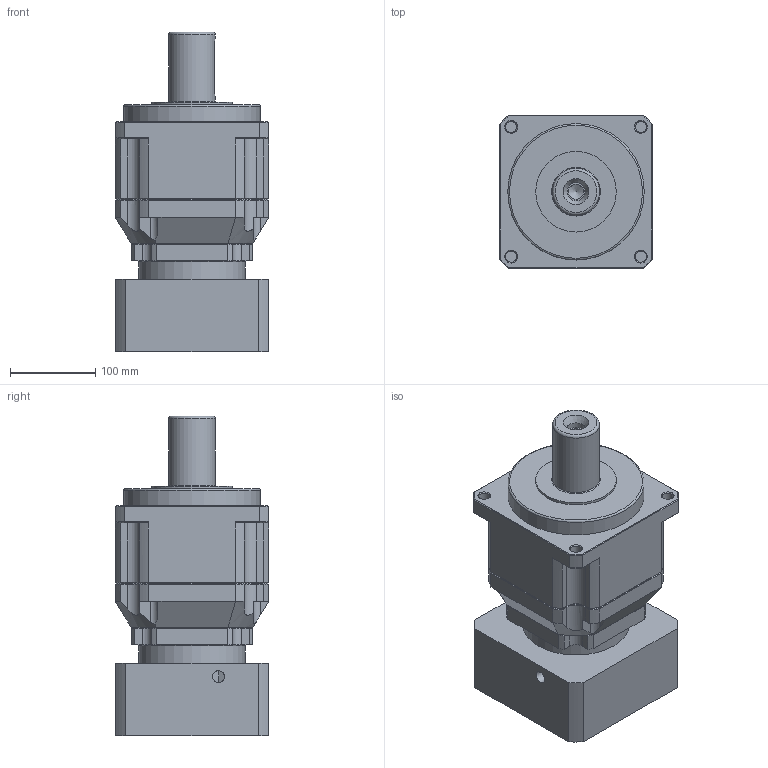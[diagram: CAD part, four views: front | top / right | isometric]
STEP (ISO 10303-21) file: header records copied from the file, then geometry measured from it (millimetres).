
FILE_DESCRIPTION(/* description */ (''),/* implementation_level */ '2;1');
FILE_NAME(/* name */ 'TB180-L2-42-114.3-200-M12-115-15.stp',/* time_stamp */ '2020-11-24T16:39:06+08:00',/* author */ (''),/* organization */ (''),/* preprocessor_version */ 'ST-DEVELOPER v16',/* originating_system */ 'SIEMENS PLM Software NX 10.0',/* authorisation */ '');
FILE_SCHEMA (('CONFIG_CONTROL_DESIGN'));
Length unit declared in the file: millimetre
Products named in the file (1): _model294
Bounding box: 180 x 180 x 374.8 mm (x, y, z)
Volume: 6857776.3 mm3; surface area: 452953 mm2
Topology: 4 solids, 4 shells, 424 faces, 1032 edges, 641 vertices
Faces by surface type: plane 176, cylinder 132, cone 99, torus 9, bspline 8
Full cylindrical faces by diameter (mm): 6.8 x11, 8.5 x5, 9 x6, 10 x8, 11 x4, 13 x4, 14 x8, 16.7 x1, 17.5 x1, 21 x1, 42 x1, 42.3 x1, 49.5 x1, 52 x2, 55 x4, 60 x1, 65 x1, 70 x1, 94.5 x1, 95 x1, 105 x1, 111 x1, 125 x2, 130 x1, 160 x1
Entity records: 12306 total; most frequent: CARTESIAN_POINT 3032, DIRECTION 1916, ORIENTED_EDGE 1708, EDGE_CURVE 854, AXIS2_PLACEMENT_3D 782, EDGE_LOOP 611, VERTEX_POINT 606, ADVANCED_FACE 424
